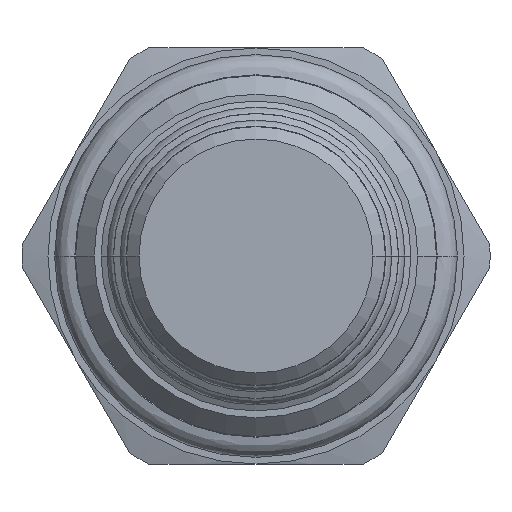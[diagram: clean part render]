
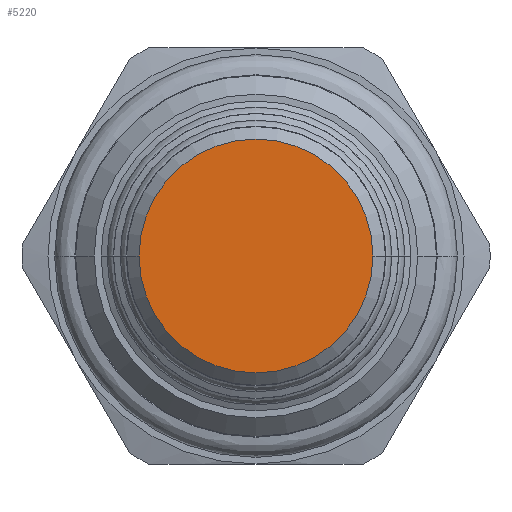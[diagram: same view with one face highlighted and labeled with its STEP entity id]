
A CAD part, front view. The second image highlights one B-rep face of the part: STEP entity #5220.
In plain terms, the highlighted planar face has unit normal (0, -1, 0).
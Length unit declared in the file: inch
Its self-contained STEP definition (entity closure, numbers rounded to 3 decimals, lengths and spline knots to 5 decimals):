
#2178=CARTESIAN_POINT('',(0.,-1.83777,0.));
#2179=DIRECTION('',(0.,1.,0.));
#2180=DIRECTION('',(1.,0.,0.));
#2181=AXIS2_PLACEMENT_3D('',#2178,#2179,#2180);
#2192=CARTESIAN_POINT('',(0.,-1.83777,0.));
#2193=DIRECTION('',(0.,-1.,0.));
#2194=DIRECTION('',(1.,0.,0.));
#2195=AXIS2_PLACEMENT_3D('',#2192,#2193,#2194);
#2301=CARTESIAN_POINT('',(0.281,-1.83777,0.));
#2302=CARTESIAN_POINT('',(-0.281,-1.83777,0.));
#2303=VERTEX_POINT('',#2301);
#2304=VERTEX_POINT('',#2302);
#5211=CARTESIAN_POINT('',(0.,-1.83777,0.));
#5212=DIRECTION('',(0.,1.,0.));
#5213=DIRECTION('',(-1.,0.,0.));
#5214=AXIS2_PLACEMENT_3D('',#5211,#5212,#5213);
#5215=PLANE('',#5214);
#5216=ORIENTED_EDGE('',*,*,#5205,.F.);
#5217=ORIENTED_EDGE('',*,*,#5191,.T.);
#5218=EDGE_LOOP('',(#5216,#5217));
#5219=FACE_OUTER_BOUND('',#5218,.F.);
#5220=ADVANCED_FACE('',(#5219),#5215,.F.);
#2182=CIRCLE('',#2181,0.281);
#2196=CIRCLE('',#2195,0.281);
#5191=EDGE_CURVE('',#2303,#2304,#2182,.T.);
#5205=EDGE_CURVE('',#2303,#2304,#2196,.T.);
